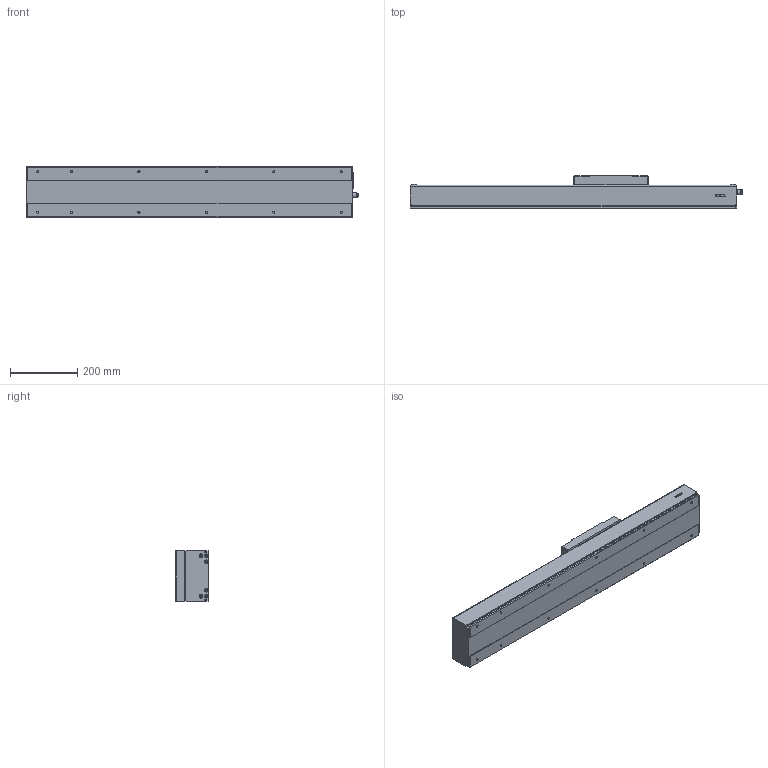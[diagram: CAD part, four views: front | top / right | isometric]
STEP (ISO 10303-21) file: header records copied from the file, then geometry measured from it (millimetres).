
FILE_DESCRIPTION(/* description */ (''),/* implementation_level */ '2;1');
FILE_NAME(/* name */ 'D:\混合母檔20191031\混和母檔\混和母檔\bin\Debug\Download\3D\KS150-20C-450AFI\KS150-20C-450AFI.stp',/* time_stamp */ '2019-11-04T15:58:27+08:00',/* author */ ('user'),/* organization */ (''),/* preprocessor_version */ 'ST-DEVELOPER v16.13',/* originating_system */ 'Autodesk Inventor 2018',/* authorisation */ '');
FILE_SCHEMA (('AUTOMOTIVE_DESIGN { 1 0 10303 214 3 1 1 }'));
Length unit declared in the file: millimetre
Products named in the file (3): KS150-20C-450AFI; KS150-FI; KS150-SL
Assembly tree (2 placements, depth 2):
  KS150-20C-450AFI
    KS150-FI
    KS150-SL
Bounding box: 985.05 x 100 x 152.4 mm (x, y, z)
Volume: 4312723.4 mm3; surface area: 1010827.4 mm2
Topology: 4 solids, 8 shells, 1237 faces, 3265 edges, 2118 vertices
Faces by surface type: plane 615, cone 226, cylinder 188, bspline 136, torus 68, sphere 4
Full cylindrical faces by diameter (mm): 3.242 x12, 3.571 x8, 4.134 x4, 4.5 x8, 4.509 x6, 4.917 x4, 5 x18, 5.5 x12, 6 x2, 6.647 x16, 8 x4, 8.4 x8, 9.3 x12, 10.437 x1, 12 x1, 14 x1, 15 x1, 15.538 x1, 23 x1, 46 x1, 50 x1
Entity records: 40888 total; most frequent: CARTESIAN_POINT 12708, ORIENTED_EDGE 5832, DIRECTION 5409, EDGE_CURVE 2916, VERTEX_POINT 2012, AXIS2_PLACEMENT_3D 1872, LINE 1665, VECTOR 1665
